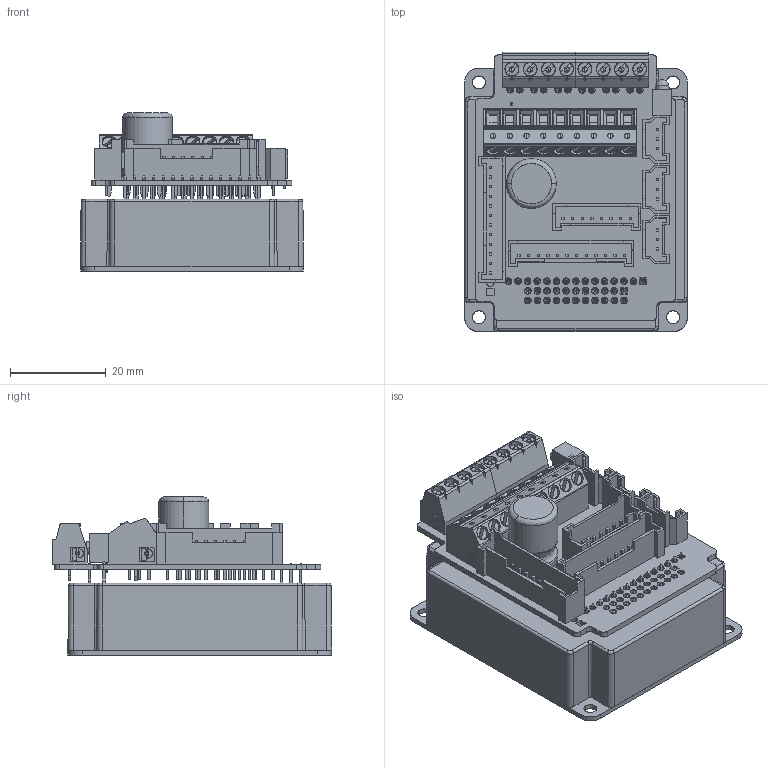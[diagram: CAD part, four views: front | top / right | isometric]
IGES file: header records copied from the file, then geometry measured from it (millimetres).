
Start section: SolidWorks IGES file using analytic representation for surfaces
Global section: file name: F:\ELMO\PRODUCTS\SOLO\DRAWING\SOLID-PARTS\solo-whistle.IGS; native system: SolidWorks 2007; preprocessor: SolidWorks 2007; author: shlomo; date: 080218.165528; units: millimetre
Bounding box: 46.54 x 58.27 x 33 mm (x, y, z)
Surface area: 24049.5 mm2 (no closed solid volume)
Topology: 0 solids, 0 shells, 2552 faces, 20425 edges, 20390 vertices
Faces by surface type: bspline 1921, revolution 631
